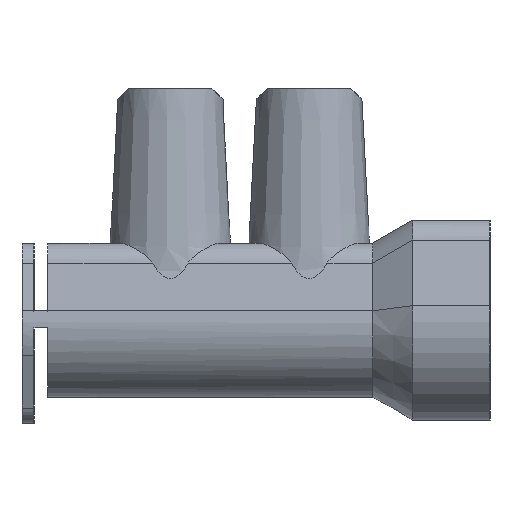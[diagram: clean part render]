
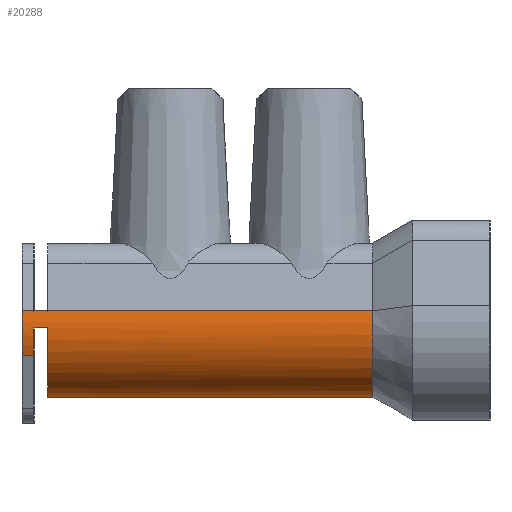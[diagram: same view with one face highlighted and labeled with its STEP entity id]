
A CAD part, left-side view. The second image highlights one B-rep face of the part: STEP entity #20288.
In plain terms, the highlighted cylindrical face has radius 4.15 mm (diameter 8.3 mm), a partial arc.
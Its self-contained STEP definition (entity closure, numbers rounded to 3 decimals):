
#1593=LINE('',#30409,#3565);
#1594=LINE('',#30413,#3566);
#1595=LINE('',#30415,#3567);
#1596=LINE('',#30417,#3568);
#1597=LINE('',#30421,#3569);
#1598=LINE('',#30425,#3570);
#1599=LINE('',#30429,#3571);
#1600=LINE('',#30433,#3572);
#1601=LINE('',#30437,#3573);
#1602=LINE('',#30439,#3574);
#1603=LINE('',#30441,#3575);
#1604=LINE('',#30447,#3576);
#1605=LINE('',#30451,#3577);
#1606=LINE('',#30455,#3578);
#3565=VECTOR('',#24084,1000.);
#3566=VECTOR('',#24087,1000.);
#3567=VECTOR('',#24088,1000.);
#3568=VECTOR('',#24089,1000.);
#3569=VECTOR('',#24092,1000.);
#3570=VECTOR('',#24095,1000.);
#3571=VECTOR('',#24098,1000.);
#3572=VECTOR('',#24101,1000.);
#3573=VECTOR('',#24104,1000.);
#3574=VECTOR('',#24105,1000.);
#3575=VECTOR('',#24106,1000.);
#3576=VECTOR('',#24111,1000.);
#3577=VECTOR('',#24114,1000.);
#3578=VECTOR('',#24117,1000.);
#5879=ORIENTED_EDGE('',*,*,#12142,.T.);
#5880=ORIENTED_EDGE('',*,*,#12143,.T.);
#5881=ORIENTED_EDGE('',*,*,#12144,.T.);
#5882=ORIENTED_EDGE('',*,*,#12145,.T.);
#5883=ORIENTED_EDGE('',*,*,#12146,.F.);
#5884=ORIENTED_EDGE('',*,*,#12147,.F.);
#5885=ORIENTED_EDGE('',*,*,#12148,.F.);
#5886=ORIENTED_EDGE('',*,*,#12149,.T.);
#5887=ORIENTED_EDGE('',*,*,#12150,.T.);
#5888=ORIENTED_EDGE('',*,*,#12151,.F.);
#5889=ORIENTED_EDGE('',*,*,#12152,.T.);
#5890=ORIENTED_EDGE('',*,*,#12153,.T.);
#5891=ORIENTED_EDGE('',*,*,#12154,.F.);
#5892=ORIENTED_EDGE('',*,*,#12155,.F.);
#5893=ORIENTED_EDGE('',*,*,#12156,.F.);
#5894=ORIENTED_EDGE('',*,*,#12157,.T.);
#5895=ORIENTED_EDGE('',*,*,#12158,.T.);
#5896=ORIENTED_EDGE('',*,*,#12159,.T.);
#5897=ORIENTED_EDGE('',*,*,#12160,.T.);
#5898=ORIENTED_EDGE('',*,*,#12161,.F.);
#5899=ORIENTED_EDGE('',*,*,#12162,.F.);
#5900=ORIENTED_EDGE('',*,*,#12163,.F.);
#5901=ORIENTED_EDGE('',*,*,#12164,.F.);
#5902=ORIENTED_EDGE('',*,*,#12165,.T.);
#5903=ORIENTED_EDGE('',*,*,#12166,.T.);
#5904=ORIENTED_EDGE('',*,*,#12167,.F.);
#12142=EDGE_CURVE('',#15251,#15252,#16972,.F.);
#12143=EDGE_CURVE('',#15252,#15253,#16973,.F.);
#12144=EDGE_CURVE('',#15253,#15254,#1593,.T.);
#12145=EDGE_CURVE('',#15254,#15255,#16974,.T.);
#12146=EDGE_CURVE('',#15256,#15255,#1594,.T.);
#12147=EDGE_CURVE('',#15257,#15256,#1595,.T.);
#12148=EDGE_CURVE('',#15258,#15257,#1596,.T.);
#12149=EDGE_CURVE('',#15258,#15259,#16975,.T.);
#12150=EDGE_CURVE('',#15259,#15260,#1597,.T.);
#12151=EDGE_CURVE('',#15261,#15260,#16976,.T.);
#12152=EDGE_CURVE('',#15261,#15262,#1598,.T.);
#12153=EDGE_CURVE('',#15262,#15263,#16977,.T.);
#12154=EDGE_CURVE('',#15264,#15263,#1599,.T.);
#12155=EDGE_CURVE('',#15265,#15264,#16978,.T.);
#12156=EDGE_CURVE('',#15266,#15265,#1600,.T.);
#12157=EDGE_CURVE('',#15266,#15267,#16979,.T.);
#12158=EDGE_CURVE('',#15267,#15268,#1601,.T.);
#12159=EDGE_CURVE('',#15268,#15269,#1602,.T.);
#12160=EDGE_CURVE('',#15269,#15270,#1603,.T.);
#12161=EDGE_CURVE('',#15271,#15270,#16980,.F.);
#12162=EDGE_CURVE('',#15272,#15271,#16981,.F.);
#12163=EDGE_CURVE('',#15273,#15272,#1604,.F.);
#12164=EDGE_CURVE('',#15274,#15273,#16982,.F.);
#12165=EDGE_CURVE('',#15274,#15275,#1605,.T.);
#12166=EDGE_CURVE('',#15275,#15276,#16983,.F.);
#12167=EDGE_CURVE('',#15251,#15276,#1606,.F.);
#15251=VERTEX_POINT('',#30405);
#15252=VERTEX_POINT('',#30406);
#15253=VERTEX_POINT('',#30408);
#15254=VERTEX_POINT('',#30410);
#15255=VERTEX_POINT('',#30412);
#15256=VERTEX_POINT('',#30414);
#15257=VERTEX_POINT('',#30416);
#15258=VERTEX_POINT('',#30418);
#15259=VERTEX_POINT('',#30420);
#15260=VERTEX_POINT('',#30422);
#15261=VERTEX_POINT('',#30424);
#15262=VERTEX_POINT('',#30426);
#15263=VERTEX_POINT('',#30428);
#15264=VERTEX_POINT('',#30430);
#15265=VERTEX_POINT('',#30432);
#15266=VERTEX_POINT('',#30434);
#15267=VERTEX_POINT('',#30436);
#15268=VERTEX_POINT('',#30438);
#15269=VERTEX_POINT('',#30440);
#15270=VERTEX_POINT('',#30442);
#15271=VERTEX_POINT('',#30444);
#15272=VERTEX_POINT('',#30446);
#15273=VERTEX_POINT('',#30448);
#15274=VERTEX_POINT('',#30450);
#15275=VERTEX_POINT('',#30452);
#15276=VERTEX_POINT('',#30454);
#16972=CIRCLE('',#21689,4.15);
#16973=CIRCLE('',#21690,4.15);
#16974=CIRCLE('',#21691,4.15);
#16975=CIRCLE('',#21692,4.15);
#16976=CIRCLE('',#21693,4.15);
#16977=CIRCLE('',#21694,4.15);
#16978=CIRCLE('',#21695,4.15);
#16979=CIRCLE('',#21696,4.15);
#16980=CIRCLE('',#21697,4.15);
#16981=CIRCLE('',#21698,4.15);
#16982=CIRCLE('',#21699,4.15);
#16983=CIRCLE('',#21700,4.15);
#17528=EDGE_LOOP('',(#5879,#5880,#5881,#5882,#5883,#5884,#5885,#5886,#5887,
#5888,#5889,#5890,#5891,#5892,#5893,#5894,#5895,#5896,#5897,#5898,#5899,
#5900,#5901,#5902,#5903,#5904));
#18762=FACE_BOUND('',#17528,.T.);
#19962=CYLINDRICAL_SURFACE('',#21688,4.15);
#20288=ADVANCED_FACE('',(#18762),#19962,.T.);
#21688=AXIS2_PLACEMENT_3D('',#30403,#24078,#24079);
#21689=AXIS2_PLACEMENT_3D('',#30404,#24080,#24081);
#21690=AXIS2_PLACEMENT_3D('',#30407,#24082,#24083);
#21691=AXIS2_PLACEMENT_3D('',#30411,#24085,#24086);
#21692=AXIS2_PLACEMENT_3D('',#30419,#24090,#24091);
#21693=AXIS2_PLACEMENT_3D('',#30423,#24093,#24094);
#21694=AXIS2_PLACEMENT_3D('',#30427,#24096,#24097);
#21695=AXIS2_PLACEMENT_3D('',#30431,#24099,#24100);
#21696=AXIS2_PLACEMENT_3D('',#30435,#24102,#24103);
#21697=AXIS2_PLACEMENT_3D('',#30443,#24107,#24108);
#21698=AXIS2_PLACEMENT_3D('',#30445,#24109,#24110);
#21699=AXIS2_PLACEMENT_3D('',#30449,#24112,#24113);
#21700=AXIS2_PLACEMENT_3D('',#30453,#24115,#24116);
#24078=DIRECTION('',(0.,-1.,0.));
#24079=DIRECTION('',(0.,0.,-1.));
#24080=DIRECTION('',(0.,1.,0.));
#24081=DIRECTION('',(-1.,0.,0.));
#24082=DIRECTION('',(0.,1.,0.));
#24083=DIRECTION('',(-1.,0.,0.));
#24084=DIRECTION('',(0.,-1.,0.));
#24085=DIRECTION('',(0.,1.,0.));
#24086=DIRECTION('',(0.976,0.,0.218));
#24087=DIRECTION('',(0.,-1.,0.));
#24088=DIRECTION('',(0.,-1.,0.));
#24089=DIRECTION('',(0.,-1.,0.));
#24090=DIRECTION('',(0.,-1.,0.));
#24091=DIRECTION('',(1.,0.,-0.023));
#24092=DIRECTION('',(0.,-1.,0.));
#24093=DIRECTION('',(0.,-1.,0.));
#24094=DIRECTION('',(-1.,0.,0.023));
#24095=DIRECTION('',(0.,-1.,0.));
#24096=DIRECTION('',(0.,-1.,0.));
#24097=DIRECTION('',(0.,0.,1.));
#24098=DIRECTION('',(0.,-1.,0.));
#24099=DIRECTION('',(0.,-1.,0.));
#24100=DIRECTION('',(-1.,0.,0.023));
#24101=DIRECTION('',(0.,-1.,0.));
#24102=DIRECTION('',(0.,-1.,0.));
#24103=DIRECTION('',(-1.,0.,0.023));
#24104=DIRECTION('',(0.,-1.,0.));
#24105=DIRECTION('',(0.,-1.,0.));
#24106=DIRECTION('',(0.,-1.,0.));
#24107=DIRECTION('',(0.,1.,0.));
#24108=DIRECTION('',(-1.,0.,0.));
#24109=DIRECTION('',(0.,1.,0.));
#24110=DIRECTION('',(-1.,0.,0.));
#24111=DIRECTION('',(0.,-1.,0.));
#24112=DIRECTION('',(0.,-1.,0.));
#24113=DIRECTION('',(1.,0.,0.));
#24114=DIRECTION('',(0.,-1.,0.));
#24115=DIRECTION('',(0.,-1.,0.));
#24116=DIRECTION('',(1.,0.,0.));
#24117=DIRECTION('',(0.,-1.,0.));
#30403=CARTESIAN_POINT('',(0.,14.695,-0.35));
#30404=CARTESIAN_POINT('',(0.,11.3,-0.35));
#30405=CARTESIAN_POINT('',(2.307,11.3,-3.8));
#30406=CARTESIAN_POINT('',(4.15,11.3,-0.35));
#30407=CARTESIAN_POINT('',(0.,11.3,-0.35));
#30408=CARTESIAN_POINT('',(4.05,11.3,0.555));
#30409=CARTESIAN_POINT('',(4.05,14.695,0.555));
#30410=CARTESIAN_POINT('',(4.05,6.838,0.555));
#30411=CARTESIAN_POINT('',(0.,6.838,-0.35));
#30412=CARTESIAN_POINT('',(-4.05,6.838,0.555));
#30413=CARTESIAN_POINT('',(-4.05,14.695,0.555));
#30414=CARTESIAN_POINT('',(-4.05,25.8,0.555));
#30415=CARTESIAN_POINT('',(-4.05,26.6,0.555));
#30416=CARTESIAN_POINT('',(-4.05,26.6,0.555));
#30417=CARTESIAN_POINT('',(-4.05,27.3,0.555));
#30418=CARTESIAN_POINT('',(-4.05,27.3,0.555));
#30419=CARTESIAN_POINT('',(0.,27.3,-0.35));
#30420=CARTESIAN_POINT('',(-3.781,27.3,-2.06));
#30421=CARTESIAN_POINT('',(-3.781,27.3,-2.06));
#30422=CARTESIAN_POINT('',(-3.781,26.6,-2.06));
#30423=CARTESIAN_POINT('',(0.,26.6,-0.35));
#30424=CARTESIAN_POINT('',(-4.149,26.6,-0.447));
#30425=CARTESIAN_POINT('',(-4.149,26.6,-0.447));
#30426=CARTESIAN_POINT('',(-4.149,25.8,-0.447));
#30427=CARTESIAN_POINT('',(0.,25.8,-0.35));
#30428=CARTESIAN_POINT('',(4.149,25.8,-0.447));
#30429=CARTESIAN_POINT('',(4.149,26.6,-0.447));
#30430=CARTESIAN_POINT('',(4.149,26.6,-0.447));
#30431=CARTESIAN_POINT('',(0.,26.6,-0.35));
#30432=CARTESIAN_POINT('',(3.781,26.6,-2.06));
#30433=CARTESIAN_POINT('',(3.781,27.3,-2.06));
#30434=CARTESIAN_POINT('',(3.781,27.3,-2.06));
#30435=CARTESIAN_POINT('',(0.,27.3,-0.35));
#30436=CARTESIAN_POINT('',(4.05,27.3,0.555));
#30437=CARTESIAN_POINT('',(4.05,27.3,0.555));
#30438=CARTESIAN_POINT('',(4.05,26.6,0.555));
#30439=CARTESIAN_POINT('',(4.05,26.6,0.555));
#30440=CARTESIAN_POINT('',(4.05,25.8,0.555));
#30441=CARTESIAN_POINT('',(4.05,14.695,0.555));
#30442=CARTESIAN_POINT('',(4.05,17.8,0.555));
#30443=CARTESIAN_POINT('',(0.,17.8,-0.35));
#30444=CARTESIAN_POINT('',(4.15,17.8,-0.35));
#30445=CARTESIAN_POINT('',(0.,17.8,-0.35));
#30446=CARTESIAN_POINT('',(2.307,17.8,-3.8));
#30447=CARTESIAN_POINT('',(2.307,14.695,-3.8));
#30448=CARTESIAN_POINT('',(2.307,16.8,-3.8));
#30449=CARTESIAN_POINT('',(0.,16.8,-0.35));
#30450=CARTESIAN_POINT('',(4.05,16.8,0.555));
#30451=CARTESIAN_POINT('',(4.05,14.695,0.555));
#30452=CARTESIAN_POINT('',(4.05,12.3,0.555));
#30453=CARTESIAN_POINT('',(0.,12.3,-0.35));
#30454=CARTESIAN_POINT('',(2.307,12.3,-3.8));
#30455=CARTESIAN_POINT('',(2.307,14.695,-3.8));
